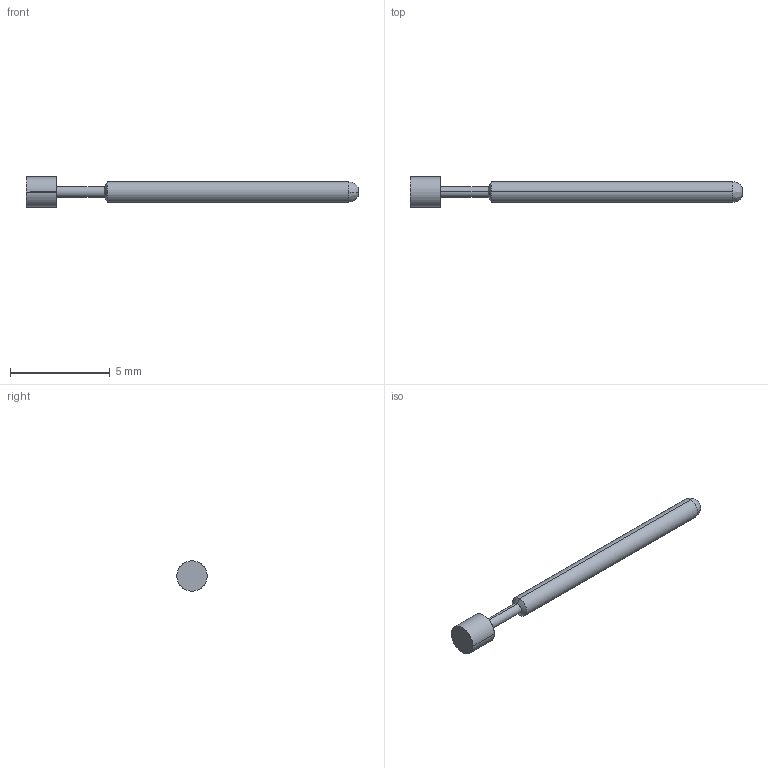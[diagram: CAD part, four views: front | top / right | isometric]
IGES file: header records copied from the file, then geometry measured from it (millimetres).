
Start section: SolidWorks IGES file using analytic representation for surfaces
Global section: file name: F:\OneDrive\Desktop\Coda\24.8\PA2 series RTP\CAD Files\PA2F.IGS; native system: SolidWorks 2021; preprocessor: SolidWorks 2021; author: Georg; date: 210825.123213; units: inch
Bounding box: 16.64 x 1.52 x 1.52 mm (x, y, z)
Surface area: 55.7 mm2 (no closed solid volume)
Topology: 0 solids, 0 shells, 13 faces, 108 edges, 108 vertices
Faces by surface type: revolution 8, bspline 5
